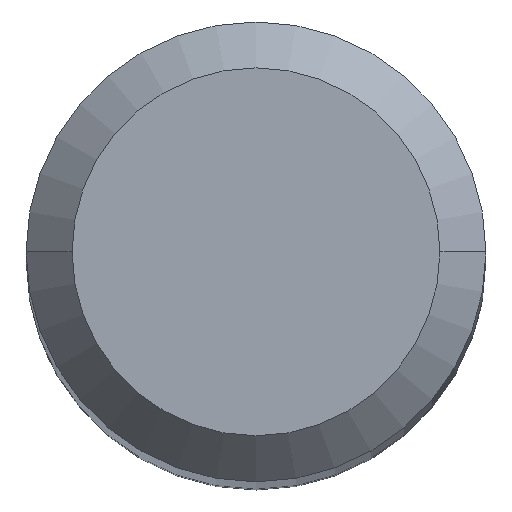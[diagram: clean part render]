
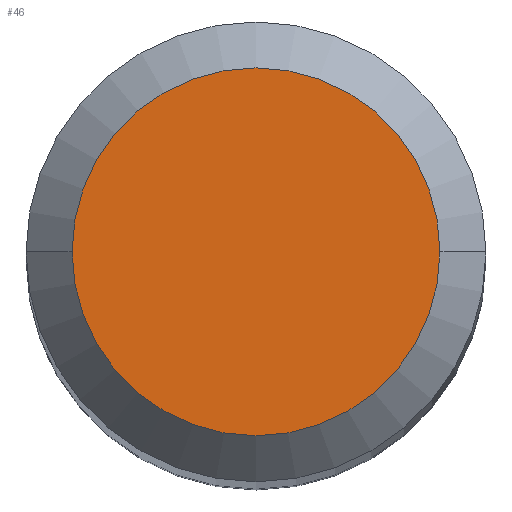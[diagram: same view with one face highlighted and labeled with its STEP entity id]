
A CAD part, top view. The second image highlights one B-rep face of the part: STEP entity #46.
In plain terms, the highlighted planar face has unit normal (0, 0, 1).
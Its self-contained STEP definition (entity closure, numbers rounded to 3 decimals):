
#9 = ORIENTED_EDGE ( 'NONE', *, *, #209, .F. ) ;
#41 = DIRECTION ( 'NONE',  ( 0., 0., -1. ) ) ;
#46 = ADVANCED_FACE ( 'NONE', ( #169 ), #237, .T. ) ;
#65 = DIRECTION ( 'NONE',  ( 0., 0., 1. ) ) ;
#113 = CARTESIAN_POINT ( 'NONE',  ( -2., 0., 0. ) ) ;
#120 = CARTESIAN_POINT ( 'NONE',  ( 0., 0., 0. ) ) ;
#142 = VERTEX_POINT ( 'NONE', #113 ) ;
#148 = DIRECTION ( 'NONE',  ( 0., 0., -1. ) ) ;
#153 = CIRCLE ( 'NONE', #381, 2. ) ;
#169 = FACE_OUTER_BOUND ( 'NONE', #320, .T. ) ;
#192 = AXIS2_PLACEMENT_3D ( 'NONE', #120, #41, #252 ) ;
#207 = ORIENTED_EDGE ( 'NONE', *, *, #300, .F. ) ;
#208 = DIRECTION ( 'NONE',  ( -1., 0., 0. ) ) ;
#209 = EDGE_CURVE ( 'NONE', #359, #142, #409, .T. ) ;
#237 = PLANE ( 'NONE',  #305 ) ;
#252 = DIRECTION ( 'NONE',  ( -1., 0., 0. ) ) ;
#282 = CARTESIAN_POINT ( 'NONE',  ( 0., 0., 0. ) ) ;
#300 = EDGE_CURVE ( 'NONE', #142, #359, #153, .T. ) ;
#305 = AXIS2_PLACEMENT_3D ( 'NONE', #357, #65, #327 ) ;
#320 = EDGE_LOOP ( 'NONE', ( #207, #9 ) ) ;
#327 = DIRECTION ( 'NONE',  ( 1., 0., 0. ) ) ;
#357 = CARTESIAN_POINT ( 'NONE',  ( 0., 2., 0. ) ) ;
#359 = VERTEX_POINT ( 'NONE', #375 ) ;
#375 = CARTESIAN_POINT ( 'NONE',  ( 2., 0., 0. ) ) ;
#381 = AXIS2_PLACEMENT_3D ( 'NONE', #282, #148, #208 ) ;
#409 = CIRCLE ( 'NONE', #192, 2. ) ;
